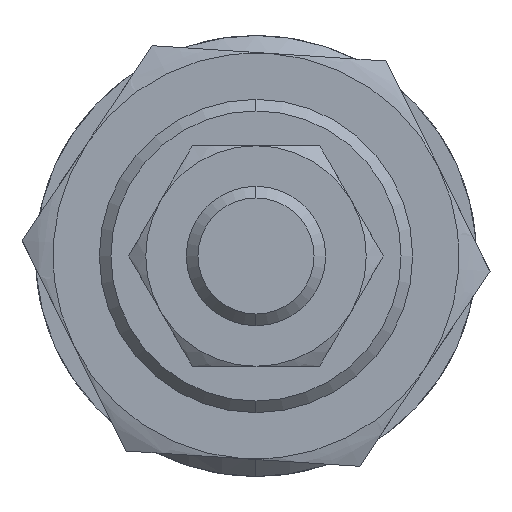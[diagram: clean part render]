
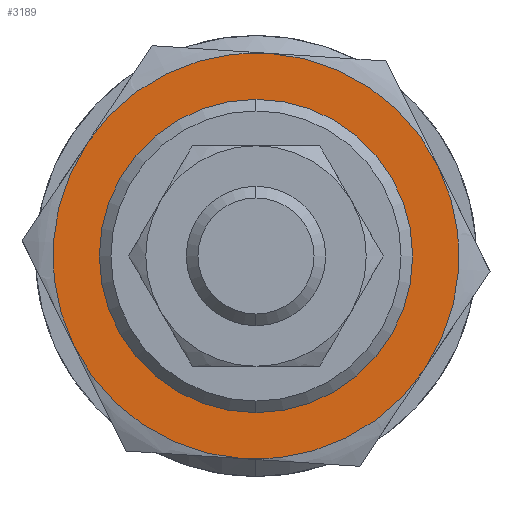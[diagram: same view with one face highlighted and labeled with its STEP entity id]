
A CAD part, left-side view. The second image highlights one B-rep face of the part: STEP entity #3189.
In plain terms, the highlighted planar face has unit normal (-1, 0, 0) as drawn and (0, 0, -1) by its records, which use the part's own axes.
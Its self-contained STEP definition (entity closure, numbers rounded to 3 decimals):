
#7 = DIRECTION ( 'NONE',  ( 0., 0., 1. ) ) ;
#28 = DIRECTION ( 'NONE',  ( 1., 0., 0. ) ) ;
#41 = DIRECTION ( 'NONE',  ( 0., 0., 1. ) ) ;
#94 = CARTESIAN_POINT ( 'NONE',  ( -12.5, 0., -5. ) ) ;
#123 = CIRCLE ( 'NONE', #740, 17.5 ) ;
#160 = EDGE_CURVE ( 'NONE', #2581, #3211, #694, .T. ) ;
#164 = DIRECTION ( 'NONE',  ( 0., 0., 1. ) ) ;
#179 = CARTESIAN_POINT ( 'NONE',  ( 0., 0., -5. ) ) ;
#224 = AXIS2_PLACEMENT_3D ( 'NONE', #739, #2955, #28 ) ;
#237 = CARTESIAN_POINT ( 'NONE',  ( 12.5, 0., -5. ) ) ;
#254 = AXIS2_PLACEMENT_3D ( 'NONE', #1971, #7, #2395 ) ;
#285 = AXIS2_PLACEMENT_3D ( 'NONE', #1281, #41, #488 ) ;
#316 = EDGE_CURVE ( 'NONE', #3211, #3036, #123, .T. ) ;
#357 = CARTESIAN_POINT ( 'NONE',  ( 0., 0., -5. ) ) ;
#382 = ORIENTED_EDGE ( 'NONE', *, *, #1120, .F. ) ;
#421 = CARTESIAN_POINT ( 'NONE',  ( 0., 0., -5. ) ) ;
#488 = DIRECTION ( 'NONE',  ( 1., 0., 0. ) ) ;
#499 = EDGE_CURVE ( 'NONE', #759, #1890, #1030, .T. ) ;
#504 = CARTESIAN_POINT ( 'NONE',  ( -8.75, 15.155, -5. ) ) ;
#543 = AXIS2_PLACEMENT_3D ( 'NONE', #421, #2885, #2081 ) ;
#574 = ORIENTED_EDGE ( 'NONE', *, *, #2910, .F. ) ;
#658 = VERTEX_POINT ( 'NONE', #1162 ) ;
#686 = CARTESIAN_POINT ( 'NONE',  ( 0., 0., -5. ) ) ;
#694 = CIRCLE ( 'NONE', #1229, 17.5 ) ;
#724 = DIRECTION ( 'NONE',  ( 0., 0., 1. ) ) ;
#739 = CARTESIAN_POINT ( 'NONE',  ( 0., 0., -5. ) ) ;
#740 = AXIS2_PLACEMENT_3D ( 'NONE', #179, #3297, #3123 ) ;
#759 = VERTEX_POINT ( 'NONE', #94 ) ;
#776 = VERTEX_POINT ( 'NONE', #2865 ) ;
#904 = VERTEX_POINT ( 'NONE', #961 ) ;
#961 = CARTESIAN_POINT ( 'NONE',  ( 17.5, 0., -5. ) ) ;
#1030 = CIRCLE ( 'NONE', #224, 12.5 ) ;
#1036 = DIRECTION ( 'NONE',  ( 1., 0., 0. ) ) ;
#1113 = EDGE_CURVE ( 'NONE', #3036, #658, #1852, .T. ) ;
#1120 = EDGE_CURVE ( 'NONE', #776, #904, #2996, .T. ) ;
#1162 = CARTESIAN_POINT ( 'NONE',  ( -8.75, -15.155, -5. ) ) ;
#1208 = CIRCLE ( 'NONE', #543, 17.5 ) ;
#1227 = EDGE_LOOP ( 'NONE', ( #574, #382, #2695, #2486, #2771, #2804 ) ) ;
#1229 = AXIS2_PLACEMENT_3D ( 'NONE', #357, #2896, #1036 ) ;
#1241 = DIRECTION ( 'NONE',  ( 1., 0., 0. ) ) ;
#1247 = FACE_OUTER_BOUND ( 'NONE', #1227, .T. ) ;
#1281 = CARTESIAN_POINT ( 'NONE',  ( 0., 0., -5. ) ) ;
#1304 = FACE_BOUND ( 'NONE', #2702, .T. ) ;
#1347 = ORIENTED_EDGE ( 'NONE', *, *, #2096, .T. ) ;
#1447 = ORIENTED_EDGE ( 'NONE', *, *, #499, .T. ) ;
#1450 = CARTESIAN_POINT ( 'NONE',  ( -17.5, 0., -5. ) ) ;
#1520 = AXIS2_PLACEMENT_3D ( 'NONE', #686, #2778, #2959 ) ;
#1562 = CARTESIAN_POINT ( 'NONE',  ( 0., 0., -5. ) ) ;
#1566 = PLANE ( 'NONE',  #254 ) ;
#1672 = AXIS2_PLACEMENT_3D ( 'NONE', #1562, #164, #1241 ) ;
#1829 = CIRCLE ( 'NONE', #1672, 17.5 ) ;
#1833 = EDGE_CURVE ( 'NONE', #658, #776, #1208, .T. ) ;
#1852 = CIRCLE ( 'NONE', #1963, 17.5 ) ;
#1890 = VERTEX_POINT ( 'NONE', #237 ) ;
#1963 = AXIS2_PLACEMENT_3D ( 'NONE', #2619, #724, #2827 ) ;
#1971 = CARTESIAN_POINT ( 'NONE',  ( 0., 0., -5. ) ) ;
#2081 = DIRECTION ( 'NONE',  ( 1., 0., 0. ) ) ;
#2096 = EDGE_CURVE ( 'NONE', #1890, #759, #2629, .T. ) ;
#2395 = DIRECTION ( 'NONE',  ( 1., 0., 0. ) ) ;
#2486 = ORIENTED_EDGE ( 'NONE', *, *, #1113, .F. ) ;
#2581 = VERTEX_POINT ( 'NONE', #2713 ) ;
#2619 = CARTESIAN_POINT ( 'NONE',  ( 0., 0., -5. ) ) ;
#2629 = CIRCLE ( 'NONE', #1520, 12.5 ) ;
#2695 = ORIENTED_EDGE ( 'NONE', *, *, #1833, .F. ) ;
#2702 = EDGE_LOOP ( 'NONE', ( #1347, #1447 ) ) ;
#2713 = CARTESIAN_POINT ( 'NONE',  ( 8.75, 15.155, -5. ) ) ;
#2771 = ORIENTED_EDGE ( 'NONE', *, *, #316, .F. ) ;
#2778 = DIRECTION ( 'NONE',  ( 0., 0., 1. ) ) ;
#2804 = ORIENTED_EDGE ( 'NONE', *, *, #160, .F. ) ;
#2827 = DIRECTION ( 'NONE',  ( 1., 0., 0. ) ) ;
#2865 = CARTESIAN_POINT ( 'NONE',  ( 8.75, -15.155, -5. ) ) ;
#2885 = DIRECTION ( 'NONE',  ( 0., 0., 1. ) ) ;
#2896 = DIRECTION ( 'NONE',  ( 0., 0., 1. ) ) ;
#2910 = EDGE_CURVE ( 'NONE', #904, #2581, #1829, .T. ) ;
#2955 = DIRECTION ( 'NONE',  ( 0., 0., 1. ) ) ;
#2959 = DIRECTION ( 'NONE',  ( 1., 0., 0. ) ) ;
#2996 = CIRCLE ( 'NONE', #285, 17.5 ) ;
#3036 = VERTEX_POINT ( 'NONE', #1450 ) ;
#3123 = DIRECTION ( 'NONE',  ( 1., 0., 0. ) ) ;
#3189 = ADVANCED_FACE ( 'NONE', ( #1304, #1247 ), #1566, .F. ) ;
#3211 = VERTEX_POINT ( 'NONE', #504 ) ;
#3297 = DIRECTION ( 'NONE',  ( 0., 0., 1. ) ) ;
